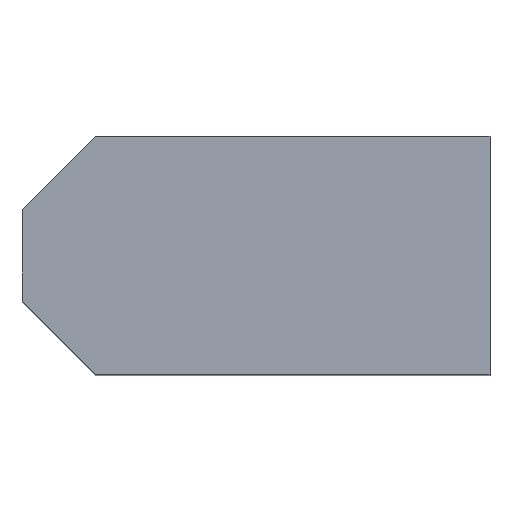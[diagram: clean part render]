
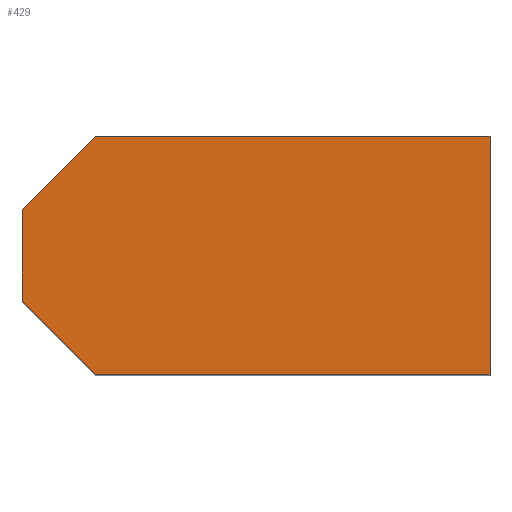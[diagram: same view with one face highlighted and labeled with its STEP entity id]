
A CAD part, top view. The second image highlights one B-rep face of the part: STEP entity #429.
In plain terms, the highlighted planar face has unit normal (0, 0, 1).
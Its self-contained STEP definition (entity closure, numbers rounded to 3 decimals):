
#32 = PLANE('',#33);
#33 = AXIS2_PLACEMENT_3D('',#34,#35,#36);
#34 = CARTESIAN_POINT('',(-2.6,-2.6,0.));
#35 = DIRECTION('',(-1.,-0.,0.));
#36 = DIRECTION('',(-0.,1.,0.));
#57 = VERTEX_POINT('',#58);
#58 = CARTESIAN_POINT('',(-2.6,-1.,16.));
#72 = PLANE('',#73);
#73 = AXIS2_PLACEMENT_3D('',#74,#75,#76);
#74 = CARTESIAN_POINT('',(-1.8,-1.8,0.));
#75 = DIRECTION('',(0.707,0.707,0.));
#76 = DIRECTION('',(0.,-0.,1.));
#84 = EDGE_CURVE('',#57,#85,#87,.T.);
#85 = VERTEX_POINT('',#86);
#86 = CARTESIAN_POINT('',(-2.6,1.,16.));
#87 = SURFACE_CURVE('',#88,(#92,#99),.PCURVE_S1.);
#88 = LINE('',#89,#90);
#89 = CARTESIAN_POINT('',(-2.6,0.,16.));
#90 = VECTOR('',#91,1.);
#91 = DIRECTION('',(-0.,1.,0.));
#92 = PCURVE('',#32,#93);
#93 = DEFINITIONAL_REPRESENTATION('',(#94),#98);
#94 = LINE('',#95,#96);
#95 = CARTESIAN_POINT('',(2.6,-16.));
#96 = VECTOR('',#97,1.);
#97 = DIRECTION('',(1.,0.));
#98 = ( GEOMETRIC_REPRESENTATION_CONTEXT(2) 
PARAMETRIC_REPRESENTATION_CONTEXT() REPRESENTATION_CONTEXT('2D SPACE',''
  ) );
#99 = PCURVE('',#100,#105);
#100 = PLANE('',#101);
#101 = AXIS2_PLACEMENT_3D('',#102,#103,#104);
#102 = CARTESIAN_POINT('',(2.5,0.,16.));
#103 = DIRECTION('',(0.,0.,1.));
#104 = DIRECTION('',(1.,0.,-0.));
#105 = DEFINITIONAL_REPRESENTATION('',(#106),#110);
#106 = LINE('',#107,#108);
#107 = CARTESIAN_POINT('',(-5.1,0.));
#108 = VECTOR('',#109,1.);
#109 = DIRECTION('',(0.,1.));
#110 = ( GEOMETRIC_REPRESENTATION_CONTEXT(2) 
PARAMETRIC_REPRESENTATION_CONTEXT() REPRESENTATION_CONTEXT('2D SPACE',''
  ) );
#126 = PLANE('',#127);
#127 = AXIS2_PLACEMENT_3D('',#128,#129,#130);
#128 = CARTESIAN_POINT('',(-1.8,1.8,0.));
#129 = DIRECTION('',(-0.707,0.707,0.));
#130 = DIRECTION('',(0.,0.,1.));
#181 = PLANE('',#182);
#182 = AXIS2_PLACEMENT_3D('',#183,#184,#185);
#183 = CARTESIAN_POINT('',(-2.6,-2.6,0.));
#184 = DIRECTION('',(-0.,1.,0.));
#185 = DIRECTION('',(1.,0.,-0.));
#209 = PLANE('',#210);
#210 = AXIS2_PLACEMENT_3D('',#211,#212,#213);
#211 = CARTESIAN_POINT('',(7.6,-2.6,0.));
#212 = DIRECTION('',(-1.,-0.,0.));
#213 = DIRECTION('',(-0.,1.,0.));
#237 = PLANE('',#238);
#238 = AXIS2_PLACEMENT_3D('',#239,#240,#241);
#239 = CARTESIAN_POINT('',(-2.6,2.6,0.));
#240 = DIRECTION('',(-0.,1.,0.));
#241 = DIRECTION('',(1.,0.,-0.));
#337 = EDGE_CURVE('',#57,#338,#340,.T.);
#338 = VERTEX_POINT('',#339);
#339 = CARTESIAN_POINT('',(-1.,-2.6,16.));
#340 = SURFACE_CURVE('',#341,(#345,#352),.PCURVE_S1.);
#341 = LINE('',#342,#343);
#342 = CARTESIAN_POINT('',(-1.175,-2.425,16.));
#343 = VECTOR('',#344,1.);
#344 = DIRECTION('',(0.707,-0.707,0.));
#345 = PCURVE('',#72,#346);
#346 = DEFINITIONAL_REPRESENTATION('',(#347),#351);
#347 = LINE('',#348,#349);
#348 = CARTESIAN_POINT('',(16.,0.884));
#349 = VECTOR('',#350,1.);
#350 = DIRECTION('',(0.,1.));
#351 = ( GEOMETRIC_REPRESENTATION_CONTEXT(2) 
PARAMETRIC_REPRESENTATION_CONTEXT() REPRESENTATION_CONTEXT('2D SPACE',''
  ) );
#352 = PCURVE('',#100,#353);
#353 = DEFINITIONAL_REPRESENTATION('',(#354),#358);
#354 = LINE('',#355,#356);
#355 = CARTESIAN_POINT('',(-3.675,-2.425));
#356 = VECTOR('',#357,1.);
#357 = DIRECTION('',(0.707,-0.707));
#358 = ( GEOMETRIC_REPRESENTATION_CONTEXT(2) 
PARAMETRIC_REPRESENTATION_CONTEXT() REPRESENTATION_CONTEXT('2D SPACE',''
  ) );
#386 = EDGE_CURVE('',#85,#387,#389,.T.);
#387 = VERTEX_POINT('',#388);
#388 = CARTESIAN_POINT('',(-1.,2.6,16.));
#389 = SURFACE_CURVE('',#390,(#394,#401),.PCURVE_S1.);
#390 = LINE('',#391,#392);
#391 = CARTESIAN_POINT('',(-1.175,2.425,16.));
#392 = VECTOR('',#393,1.);
#393 = DIRECTION('',(0.707,0.707,-0.));
#394 = PCURVE('',#126,#395);
#395 = DEFINITIONAL_REPRESENTATION('',(#396),#400);
#396 = LINE('',#397,#398);
#397 = CARTESIAN_POINT('',(16.,0.884));
#398 = VECTOR('',#399,1.);
#399 = DIRECTION('',(0.,1.));
#400 = ( GEOMETRIC_REPRESENTATION_CONTEXT(2) 
PARAMETRIC_REPRESENTATION_CONTEXT() REPRESENTATION_CONTEXT('2D SPACE',''
  ) );
#401 = PCURVE('',#100,#402);
#402 = DEFINITIONAL_REPRESENTATION('',(#403),#407);
#403 = LINE('',#404,#405);
#404 = CARTESIAN_POINT('',(-3.675,2.425));
#405 = VECTOR('',#406,1.);
#406 = DIRECTION('',(0.707,0.707));
#407 = ( GEOMETRIC_REPRESENTATION_CONTEXT(2) 
PARAMETRIC_REPRESENTATION_CONTEXT() REPRESENTATION_CONTEXT('2D SPACE',''
  ) );
#429 = ADVANCED_FACE('',(#430),#100,.T.);
#430 = FACE_BOUND('',#431,.T.);
#431 = EDGE_LOOP('',(#432,#433,#434,#457,#480,#501));
#432 = ORIENTED_EDGE('',*,*,#84,.F.);
#433 = ORIENTED_EDGE('',*,*,#337,.T.);
#434 = ORIENTED_EDGE('',*,*,#435,.T.);
#435 = EDGE_CURVE('',#338,#436,#438,.T.);
#436 = VERTEX_POINT('',#437);
#437 = CARTESIAN_POINT('',(7.6,-2.6,16.));
#438 = SURFACE_CURVE('',#439,(#443,#450),.PCURVE_S1.);
#439 = LINE('',#440,#441);
#440 = CARTESIAN_POINT('',(2.5,-2.6,16.));
#441 = VECTOR('',#442,1.);
#442 = DIRECTION('',(1.,0.,-0.));
#443 = PCURVE('',#100,#444);
#444 = DEFINITIONAL_REPRESENTATION('',(#445),#449);
#445 = LINE('',#446,#447);
#446 = CARTESIAN_POINT('',(0.,-2.6));
#447 = VECTOR('',#448,1.);
#448 = DIRECTION('',(1.,0.));
#449 = ( GEOMETRIC_REPRESENTATION_CONTEXT(2) 
PARAMETRIC_REPRESENTATION_CONTEXT() REPRESENTATION_CONTEXT('2D SPACE',''
  ) );
#450 = PCURVE('',#181,#451);
#451 = DEFINITIONAL_REPRESENTATION('',(#452),#456);
#452 = LINE('',#453,#454);
#453 = CARTESIAN_POINT('',(5.1,-16.));
#454 = VECTOR('',#455,1.);
#455 = DIRECTION('',(1.,0.));
#456 = ( GEOMETRIC_REPRESENTATION_CONTEXT(2) 
PARAMETRIC_REPRESENTATION_CONTEXT() REPRESENTATION_CONTEXT('2D SPACE',''
  ) );
#457 = ORIENTED_EDGE('',*,*,#458,.T.);
#458 = EDGE_CURVE('',#436,#459,#461,.T.);
#459 = VERTEX_POINT('',#460);
#460 = CARTESIAN_POINT('',(7.6,2.6,16.));
#461 = SURFACE_CURVE('',#462,(#466,#473),.PCURVE_S1.);
#462 = LINE('',#463,#464);
#463 = CARTESIAN_POINT('',(7.6,0.,16.));
#464 = VECTOR('',#465,1.);
#465 = DIRECTION('',(-0.,1.,0.));
#466 = PCURVE('',#100,#467);
#467 = DEFINITIONAL_REPRESENTATION('',(#468),#472);
#468 = LINE('',#469,#470);
#469 = CARTESIAN_POINT('',(5.1,0.));
#470 = VECTOR('',#471,1.);
#471 = DIRECTION('',(0.,1.));
#472 = ( GEOMETRIC_REPRESENTATION_CONTEXT(2) 
PARAMETRIC_REPRESENTATION_CONTEXT() REPRESENTATION_CONTEXT('2D SPACE',''
  ) );
#473 = PCURVE('',#209,#474);
#474 = DEFINITIONAL_REPRESENTATION('',(#475),#479);
#475 = LINE('',#476,#477);
#476 = CARTESIAN_POINT('',(2.6,-16.));
#477 = VECTOR('',#478,1.);
#478 = DIRECTION('',(1.,0.));
#479 = ( GEOMETRIC_REPRESENTATION_CONTEXT(2) 
PARAMETRIC_REPRESENTATION_CONTEXT() REPRESENTATION_CONTEXT('2D SPACE',''
  ) );
#480 = ORIENTED_EDGE('',*,*,#481,.F.);
#481 = EDGE_CURVE('',#387,#459,#482,.T.);
#482 = SURFACE_CURVE('',#483,(#487,#494),.PCURVE_S1.);
#483 = LINE('',#484,#485);
#484 = CARTESIAN_POINT('',(2.5,2.6,16.));
#485 = VECTOR('',#486,1.);
#486 = DIRECTION('',(1.,0.,-0.));
#487 = PCURVE('',#100,#488);
#488 = DEFINITIONAL_REPRESENTATION('',(#489),#493);
#489 = LINE('',#490,#491);
#490 = CARTESIAN_POINT('',(0.,2.6));
#491 = VECTOR('',#492,1.);
#492 = DIRECTION('',(1.,0.));
#493 = ( GEOMETRIC_REPRESENTATION_CONTEXT(2) 
PARAMETRIC_REPRESENTATION_CONTEXT() REPRESENTATION_CONTEXT('2D SPACE',''
  ) );
#494 = PCURVE('',#237,#495);
#495 = DEFINITIONAL_REPRESENTATION('',(#496),#500);
#496 = LINE('',#497,#498);
#497 = CARTESIAN_POINT('',(5.1,-16.));
#498 = VECTOR('',#499,1.);
#499 = DIRECTION('',(1.,0.));
#500 = ( GEOMETRIC_REPRESENTATION_CONTEXT(2) 
PARAMETRIC_REPRESENTATION_CONTEXT() REPRESENTATION_CONTEXT('2D SPACE',''
  ) );
#501 = ORIENTED_EDGE('',*,*,#386,.F.);
